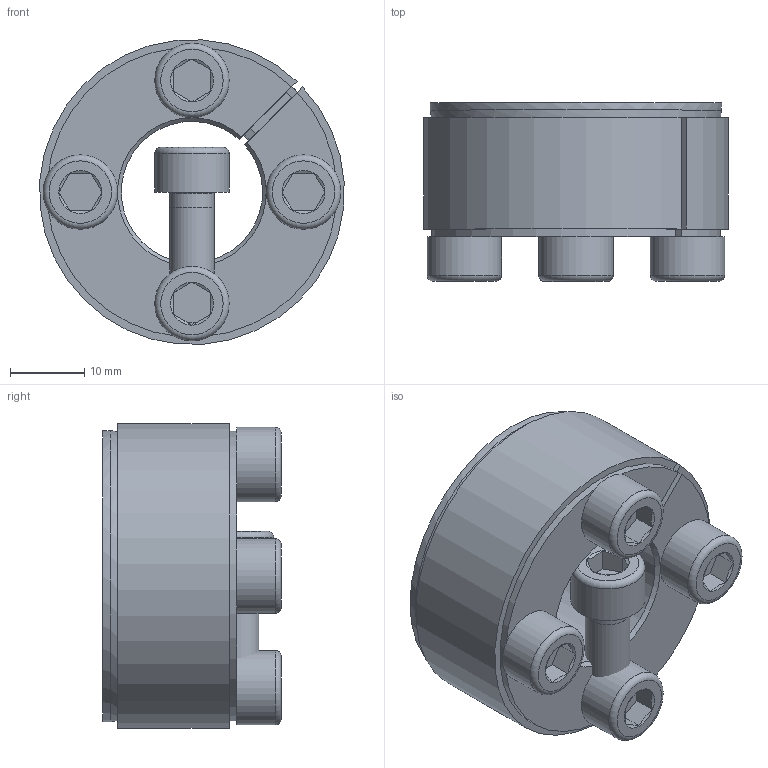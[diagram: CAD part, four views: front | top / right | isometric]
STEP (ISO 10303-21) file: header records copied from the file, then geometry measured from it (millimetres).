
FILE_DESCRIPTION( ( 'Unknown' ), '1' );
FILE_NAME( 'C:/Dokumente und Einstellungen/Sven/Desktop/homepage/cad - homepage/KBS52/KBS 52 - 19 x 41.stp', 'Unknown', ( 'Unknown' ), ( 'Unknown' ), 'XStep 1.0', 'Unknown', ' ' );
FILE_SCHEMA( ( 'automotive_design' ) );
Length unit declared in the file: millimetre
Products named in the file (3): Assem1; KBS 52 - 19 x 41; ISO EN DIN 4762 M6x18
Bounding box: 40.89 x 24 x 40.89 mm (x, y, z)
Volume: 36686.4 mm3; surface area: 17123 mm2
Topology: 7 solids, 7 shells, 173 faces, 349 edges, 208 vertices
Faces by surface type: plane 86, cone 41, cylinder 36, torus 10
Full cylindrical faces by diameter (mm): 5 x5, 6 x18, 10 x5, 39.175 x2
Entity records: 1549 total; most frequent: CARTESIAN_POINT 259, DIRECTION 231, ORIENTED_EDGE 180, AXIS2_PLACEMENT_3D 94, EDGE_CURVE 90, EDGE_LOOP 76, VERTEX_POINT 62, FACE_OUTER_BOUND 60
